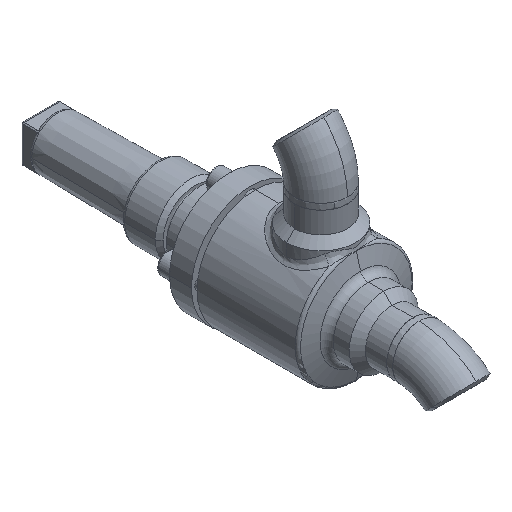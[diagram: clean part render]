
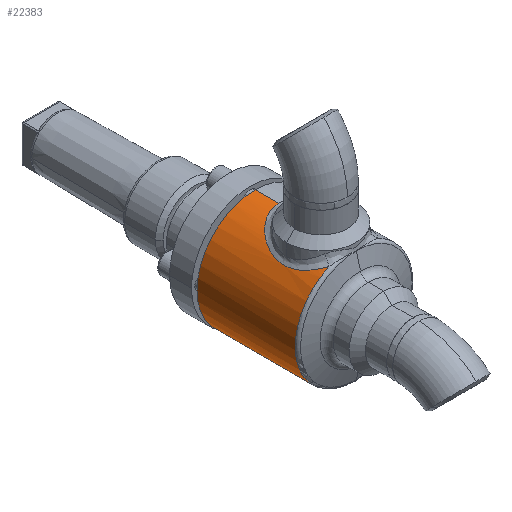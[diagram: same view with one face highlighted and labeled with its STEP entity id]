
A CAD part, isometric view. The second image highlights one B-rep face of the part: STEP entity #22383.
In plain terms, the highlighted cylindrical face has radius 37 mm (diameter 74 mm), a partial arc.
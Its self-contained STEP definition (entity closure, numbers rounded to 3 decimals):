
#17006 = CARTESIAN_POINT ( 'NONE',  ( 0., 0., 37. ) ) ;
#17710 = CARTESIAN_POINT ( 'NONE',  ( 0., -62.446, -37. ) ) ;
#1876 = EDGE_CURVE ( 'NONE', #18733, #21676, #31091, .T. ) ;
#18733 = VERTEX_POINT ( 'NONE', #24175 ) ;
#3438 = EDGE_CURVE ( 'NONE', #26263, #18733, #8342, .T. ) ;
#4294 = VERTEX_POINT ( 'NONE', #13975 ) ;
#4569 = EDGE_CURVE ( 'NONE', #4294, #21676, #14337, .T. ) ;
#21676 = VERTEX_POINT ( 'NONE', #17006 ) ;
#22250 = EDGE_LOOP ( 'NONE', ( #11539, #10893, #22730, #7064, #6108 ) ) ;
#22366 = EDGE_CURVE ( 'NONE', #23389, #4294, #29725, .T. ) ;
#22383 = ADVANCED_FACE ( 'NONE', ( #29859 ), #29860, .T. ) ;
#6108 = ORIENTED_EDGE ( 'NONE', *, *, #1876, .F. ) ;
#22730 = ORIENTED_EDGE ( 'NONE', *, *, #22366, .T. ) ;
#23389 = VERTEX_POINT ( 'NONE', #8420 ) ;
#7064 = ORIENTED_EDGE ( 'NONE', *, *, #4569, .T. ) ;
#23797 = EDGE_CURVE ( 'NONE', #26263, #23389, #8590, .T. ) ;
#24175 = CARTESIAN_POINT ( 'NONE',  ( 0., 0., -37. ) ) ;
#8342 = LINE ( 'NONE', #8359, #8360 ) ;
#8359 = CARTESIAN_POINT ( 'NONE',  ( 0., -68., -37. ) ) ;
#8360 = VECTOR ( 'NONE', #8361, 1000. ) ;
#8361 = DIRECTION ( 'NONE',  ( 0., 1., 0. ) ) ;
#8420 = CARTESIAN_POINT ( 'NONE',  ( -15.535, -62.446, 33.581 ) ) ;
#8590 = CIRCLE ( 'NONE', #8591, 37. ) ;
#8591 = AXIS2_PLACEMENT_3D ( 'NONE', #8610, #8611, #8612 ) ;
#8610 = CARTESIAN_POINT ( 'NONE',  ( 0., -62.446, 0. ) ) ;
#8611 = DIRECTION ( 'NONE',  ( 0., 1., 0. ) ) ;
#8612 = DIRECTION ( 'NONE',  ( 0., 0., -1. ) ) ;
#26263 = VERTEX_POINT ( 'NONE', #17710 ) ;
#10893 = ORIENTED_EDGE ( 'NONE', *, *, #23797, .T. ) ;
#11539 = ORIENTED_EDGE ( 'NONE', *, *, #3438, .F. ) ;
#29725 = B_SPLINE_CURVE_WITH_KNOTS ( 'NONE', 3,
 ( #29726, #29727, #29728, #29729, #29730, #29731, #29732, #29750, #29751, #29752, #29753, #29754, #29755, #29756, #29757, #29758, #29759, #29760, #29761, #29762, #29763, #29764, #29765, #29784, #29785, #29786, #29787, #29788, #29789, #29790, #29791, #29792, #29793, #29794, #29795, #29796, #29797, #29798, #29799, #29817, #29818, #29819, #29820, #29821, #29822, #29823, #29824, #29825 ),
 .UNSPECIFIED., .F., .F.,
 ( 4, 2, 2, 2, 2, 2, 2, 2, 2, 2, 2, 2, 2, 2, 2, 2, 2, 2, 2, 2, 2, 2, 2, 4 ),
 ( 0., 0.004, 0.008, 0.01, 0.012, 0.016, 0.018, 0.02, 0.024, 0.026, 0.028, 0.03, 0.032, 0.036, 0.04, 0.042, 0.044, 0.048, 0.05, 0.052, 0.056, 0.058, 0.06, 0.064 ),
 .UNSPECIFIED. ) ;
#29726 = CARTESIAN_POINT ( 'NONE',  ( -15.535, -62.446, 33.581 ) ) ;
#29727 = CARTESIAN_POINT ( 'NONE',  ( -16.452, -61.548, 33.157 ) ) ;
#29728 = CARTESIAN_POINT ( 'NONE',  ( -17.286, -60.594, 32.725 ) ) ;
#29729 = CARTESIAN_POINT ( 'NONE',  ( -18.811, -58.577, 31.873 ) ) ;
#29730 = CARTESIAN_POINT ( 'NONE',  ( -19.502, -57.514, 31.452 ) ) ;
#29731 = CARTESIAN_POINT ( 'NONE',  ( -20.434, -55.835, 30.848 ) ) ;
#29732 = CARTESIAN_POINT ( 'NONE',  ( -20.728, -55.259, 30.65 ) ) ;
#29750 = CARTESIAN_POINT ( 'NONE',  ( -21.277, -54.088, 30.272 ) ) ;
#29751 = CARTESIAN_POINT ( 'NONE',  ( -21.531, -53.494, 30.092 ) ) ;
#29752 = CARTESIAN_POINT ( 'NONE',  ( -22.233, -51.685, 29.581 ) ) ;
#29753 = CARTESIAN_POINT ( 'NONE',  ( -22.624, -50.442, 29.28 ) ) ;
#29754 = CARTESIAN_POINT ( 'NONE',  ( -23.09, -48.518, 28.912 ) ) ;
#29755 = CARTESIAN_POINT ( 'NONE',  ( -23.225, -47.864, 28.803 ) ) ;
#29756 = CARTESIAN_POINT ( 'NONE',  ( -23.453, -46.548, 28.618 ) ) ;
#29757 = CARTESIAN_POINT ( 'NONE',  ( -23.545, -45.887, 28.542 ) ) ;
#29758 = CARTESIAN_POINT ( 'NONE',  ( -23.756, -43.897, 28.367 ) ) ;
#29759 = CARTESIAN_POINT ( 'NONE',  ( -23.81, -42.56, 28.321 ) ) ;
#29760 = CARTESIAN_POINT ( 'NONE',  ( -23.758, -40.538, 28.365 ) ) ;
#29761 = CARTESIAN_POINT ( 'NONE',  ( -23.718, -39.862, 28.398 ) ) ;
#29762 = CARTESIAN_POINT ( 'NONE',  ( -23.596, -38.528, 28.5 ) ) ;
#29763 = CARTESIAN_POINT ( 'NONE',  ( -23.513, -37.867, 28.569 ) ) ;
#29764 = CARTESIAN_POINT ( 'NONE',  ( -23.304, -36.555, 28.739 ) ) ;
#29765 = CARTESIAN_POINT ( 'NONE',  ( -23.179, -35.905, 28.84 ) ) ;
#29784 = CARTESIAN_POINT ( 'NONE',  ( -22.886, -34.615, 29.073 ) ) ;
#29785 = CARTESIAN_POINT ( 'NONE',  ( -22.718, -33.974, 29.205 ) ) ;
#29786 = CARTESIAN_POINT ( 'NONE',  ( -22.153, -32.08, 29.639 ) ) ;
#29787 = CARTESIAN_POINT ( 'NONE',  ( -21.7, -30.866, 29.975 ) ) ;
#29788 = CARTESIAN_POINT ( 'NONE',  ( -20.645, -28.526, 30.712 ) ) ;
#29789 = CARTESIAN_POINT ( 'NONE',  ( -20.043, -27.4, 31.112 ) ) ;
#29790 = CARTESIAN_POINT ( 'NONE',  ( -19.02, -25.773, 31.74 ) ) ;
#29791 = CARTESIAN_POINT ( 'NONE',  ( -18.66, -25.243, 31.953 ) ) ;
#29792 = CARTESIAN_POINT ( 'NONE',  ( -17.908, -24.217, 32.381 ) ) ;
#29793 = CARTESIAN_POINT ( 'NONE',  ( -17.515, -23.72, 32.595 ) ) ;
#29794 = CARTESIAN_POINT ( 'NONE',  ( -16.284, -22.274, 33.237 ) ) ;
#29795 = CARTESIAN_POINT ( 'NONE',  ( -15.395, -21.372, 33.662 ) ) ;
#29796 = CARTESIAN_POINT ( 'NONE',  ( -13.943, -20.115, 34.276 ) ) ;
#29797 = CARTESIAN_POINT ( 'NONE',  ( -13.437, -19.71, 34.478 ) ) ;
#29798 = CARTESIAN_POINT ( 'NONE',  ( -12.398, -18.947, 34.865 ) ) ;
#29799 = CARTESIAN_POINT ( 'NONE',  ( -11.864, -18.588, 35.051 ) ) ;
#29817 = CARTESIAN_POINT ( 'NONE',  ( -10.215, -17.575, 35.581 ) ) ;
#29818 = CARTESIAN_POINT ( 'NONE',  ( -9.054, -16.989, 35.897 ) ) ;
#29819 = CARTESIAN_POINT ( 'NONE',  ( -7.207, -16.258, 36.297 ) ) ;
#29820 = CARTESIAN_POINT ( 'NONE',  ( -6.575, -16.041, 36.417 ) ) ;
#29821 = CARTESIAN_POINT ( 'NONE',  ( -5.29, -15.666, 36.626 ) ) ;
#29822 = CARTESIAN_POINT ( 'NONE',  ( -4.64, -15.508, 36.714 ) ) ;
#29823 = CARTESIAN_POINT ( 'NONE',  ( -2.677, -15.129, 36.926 ) ) ;
#29824 = CARTESIAN_POINT ( 'NONE',  ( -1.349, -15., 37. ) ) ;
#29825 = CARTESIAN_POINT ( 'NONE',  ( 0., -15., 37. ) ) ;
#29859 = FACE_OUTER_BOUND ( 'NONE', #22250, .T. ) ;
#29860 = CYLINDRICAL_SURFACE ( 'NONE', #29861, 37. ) ;
#29861 = AXIS2_PLACEMENT_3D ( 'NONE', #29862, #29863, #29864 ) ;
#29862 = CARTESIAN_POINT ( 'NONE',  ( 0., -68., 0. ) ) ;
#29863 = DIRECTION ( 'NONE',  ( 0., 1., 0. ) ) ;
#29864 = DIRECTION ( 'NONE',  ( 0., 0., 1. ) ) ;
#13975 = CARTESIAN_POINT ( 'NONE',  ( 0., -15., 37. ) ) ;
#14337 = LINE ( 'NONE', #14338, #14339 ) ;
#14338 = CARTESIAN_POINT ( 'NONE',  ( 0., -68., 37. ) ) ;
#14339 = VECTOR ( 'NONE', #14340, 1000. ) ;
#14340 = DIRECTION ( 'NONE',  ( 0., 1., 0. ) ) ;
#31091 = CIRCLE ( 'NONE', #31092, 37. ) ;
#31092 = AXIS2_PLACEMENT_3D ( 'NONE', #31093, #31094, #31095 ) ;
#31093 = CARTESIAN_POINT ( 'NONE',  ( 0., 0., 0. ) ) ;
#31094 = DIRECTION ( 'NONE',  ( 0., 1., 0. ) ) ;
#31095 = DIRECTION ( 'NONE',  ( 0., 0., 1. ) ) ;
